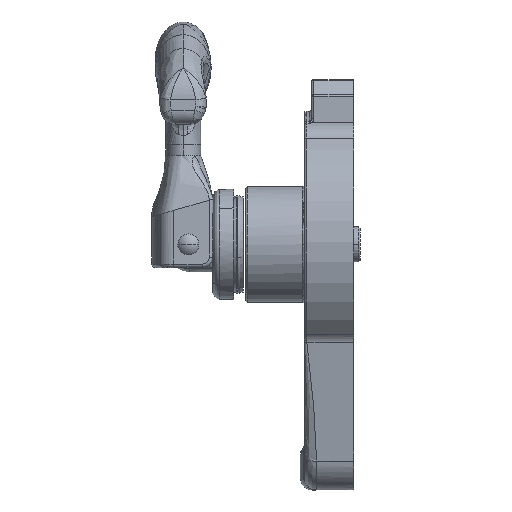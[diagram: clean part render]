
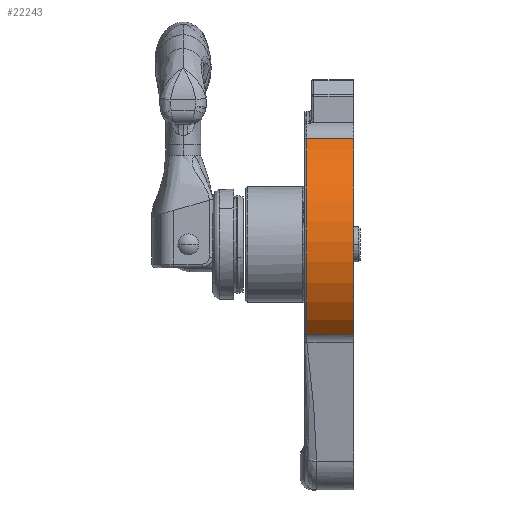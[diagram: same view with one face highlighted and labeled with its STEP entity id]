
A CAD part, left-side view. The second image highlights one B-rep face of the part: STEP entity #22243.
In plain terms, the highlighted cylindrical face has radius 35 mm (diameter 70 mm), a partial arc.
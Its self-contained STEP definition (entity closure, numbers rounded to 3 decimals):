
#235 = CARTESIAN_POINT ( 'NONE',  ( -23.631, -45.5, -25.818 ) ) ;
#659 = VECTOR ( 'NONE', #22906, 1000. ) ;
#2225 = VECTOR ( 'NONE', #23559, 1000. ) ;
#3571 = DIRECTION ( 'NONE',  ( 0., -1., 0. ) ) ;
#4279 = CARTESIAN_POINT ( 'NONE',  ( 0., -44.9, 0. ) ) ;
#4875 = AXIS2_PLACEMENT_3D ( 'NONE', #28656, #10391, #46236 ) ;
#7155 = DIRECTION ( 'NONE',  ( -1., 0., 0. ) ) ;
#8423 = CARTESIAN_POINT ( 'NONE',  ( -23.631, -44.73, -25.818 ) ) ;
#10391 = DIRECTION ( 'NONE',  ( 0., 1., 0. ) ) ;
#11972 = LINE ( 'NONE', #26886, #2225 ) ;
#12229 = LINE ( 'NONE', #8423, #659 ) ;
#15197 = EDGE_CURVE ( 'NONE', #16142, #39741, #16219, .T. ) ;
#16142 = VERTEX_POINT ( 'NONE', #28849 ) ;
#16219 = CIRCLE ( 'NONE', #4875, 35. ) ;
#18270 = CYLINDRICAL_SURFACE ( 'NONE', #28659, 35. ) ;
#21347 = FACE_OUTER_BOUND ( 'NONE', #24996, .T. ) ;
#22243 = ADVANCED_FACE ( 'NONE', ( #21347 ), #18270, .T. ) ;
#22906 = DIRECTION ( 'NONE',  ( 0., -1., 0. ) ) ;
#23340 = AXIS2_PLACEMENT_3D ( 'NONE', #28736, #28029, #7155 ) ;
#23429 = VERTEX_POINT ( 'NONE', #235 ) ;
#23559 = DIRECTION ( 'NONE',  ( 0., 1., 0. ) ) ;
#24592 = EDGE_CURVE ( 'NONE', #39741, #26454, #11972, .T. ) ;
#24996 = EDGE_LOOP ( 'NONE', ( #41707, #42563, #36185, #27396 ) ) ;
#26454 = VERTEX_POINT ( 'NONE', #42059 ) ;
#26886 = CARTESIAN_POINT ( 'NONE',  ( -17.5, -44.9, 30.311 ) ) ;
#27396 = ORIENTED_EDGE ( 'NONE', *, *, #37043, .F. ) ;
#28029 = DIRECTION ( 'NONE',  ( 0., 1., 0. ) ) ;
#28656 = CARTESIAN_POINT ( 'NONE',  ( 0., -58.9, 0. ) ) ;
#28659 = AXIS2_PLACEMENT_3D ( 'NONE', #4279, #3571, #29666 ) ;
#28736 = CARTESIAN_POINT ( 'NONE',  ( 0., -45.5, 0. ) ) ;
#28849 = CARTESIAN_POINT ( 'NONE',  ( -23.631, -58.9, -25.818 ) ) ;
#29666 = DIRECTION ( 'NONE',  ( 0., 0., 1. ) ) ;
#36185 = ORIENTED_EDGE ( 'NONE', *, *, #24592, .T. ) ;
#36231 = CIRCLE ( 'NONE', #23340, 35. ) ;
#37043 = EDGE_CURVE ( 'NONE', #23429, #26454, #36231, .T. ) ;
#37438 = EDGE_CURVE ( 'NONE', #23429, #16142, #12229, .T. ) ;
#39741 = VERTEX_POINT ( 'NONE', #44633 ) ;
#41707 = ORIENTED_EDGE ( 'NONE', *, *, #37438, .T. ) ;
#42059 = CARTESIAN_POINT ( 'NONE',  ( -17.5, -45.5, 30.311 ) ) ;
#42563 = ORIENTED_EDGE ( 'NONE', *, *, #15197, .T. ) ;
#44633 = CARTESIAN_POINT ( 'NONE',  ( -17.5, -58.9, 30.311 ) ) ;
#46236 = DIRECTION ( 'NONE',  ( 0., 0., 1. ) ) ;
